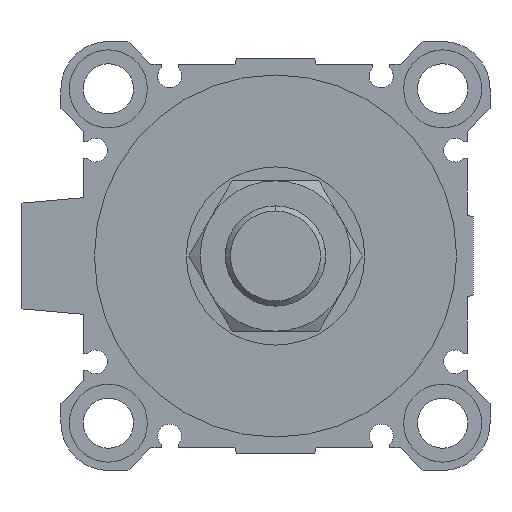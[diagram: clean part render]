
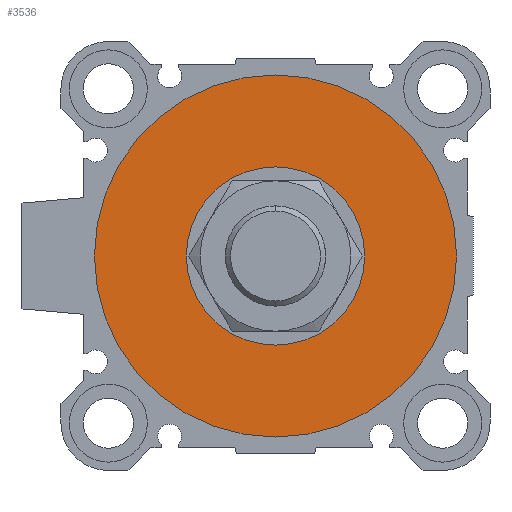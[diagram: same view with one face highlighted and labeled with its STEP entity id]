
A CAD part, left-side view. The second image highlights one B-rep face of the part: STEP entity #3536.
In plain terms, the highlighted planar face has unit normal (-1, 0, 0).
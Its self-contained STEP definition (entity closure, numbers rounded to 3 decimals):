
#155 = FACE_OUTER_BOUND ( 'NONE', #1025, .T. ) ;
#213 = CARTESIAN_POINT ( 'NONE',  ( 4., 0., 32.5 ) ) ;
#488 = DIRECTION ( 'NONE',  ( 1., 0., 0. ) ) ;
#635 = AXIS2_PLACEMENT_3D ( 'NONE', #2578, #2462, #6737 ) ;
#721 = FACE_BOUND ( 'NONE', #3749, .T. ) ;
#900 = CIRCLE ( 'NONE', #5692, 32.5 ) ;
#1025 = EDGE_LOOP ( 'NONE', ( #4342, #2739 ) ) ;
#1341 = DIRECTION ( 'NONE',  ( 1., 0., 0. ) ) ;
#1454 = CARTESIAN_POINT ( 'NONE',  ( 4., 0., 16. ) ) ;
#1584 = VERTEX_POINT ( 'NONE', #3937 ) ;
#2462 = DIRECTION ( 'NONE',  ( 1., 0., 0. ) ) ;
#2521 = CARTESIAN_POINT ( 'NONE',  ( 4., 0., 0. ) ) ;
#2578 = CARTESIAN_POINT ( 'NONE',  ( 4., 0., 0. ) ) ;
#2738 = CIRCLE ( 'NONE', #5204, 32.5 ) ;
#2739 = ORIENTED_EDGE ( 'NONE', *, *, #6615, .F. ) ;
#3026 = PLANE ( 'NONE',  #5794 ) ;
#3067 = CARTESIAN_POINT ( 'NONE',  ( 4., 0., 0. ) ) ;
#3334 = CIRCLE ( 'NONE', #635, 16. ) ;
#3536 = ADVANCED_FACE ( 'NONE', ( #155, #721 ), #3026, .F. ) ;
#3698 = DIRECTION ( 'NONE',  ( 0., 0., -1. ) ) ;
#3749 = EDGE_LOOP ( 'NONE', ( #3819, #6002 ) ) ;
#3819 = ORIENTED_EDGE ( 'NONE', *, *, #4371, .T. ) ;
#3937 = CARTESIAN_POINT ( 'NONE',  ( 4., 0., -16. ) ) ;
#4232 = AXIS2_PLACEMENT_3D ( 'NONE', #4587, #5723, #6873 ) ;
#4342 = ORIENTED_EDGE ( 'NONE', *, *, #6395, .F. ) ;
#4353 = VERTEX_POINT ( 'NONE', #213 ) ;
#4371 = EDGE_CURVE ( 'NONE', #7511, #1584, #3334, .T. ) ;
#4379 = VERTEX_POINT ( 'NONE', #4833 ) ;
#4587 = CARTESIAN_POINT ( 'NONE',  ( 4., 0., 0. ) ) ;
#4833 = CARTESIAN_POINT ( 'NONE',  ( 4., 0., -32.5 ) ) ;
#4855 = DIRECTION ( 'NONE',  ( 1., 0., 0. ) ) ;
#5204 = AXIS2_PLACEMENT_3D ( 'NONE', #6938, #488, #5645 ) ;
#5645 = DIRECTION ( 'NONE',  ( 0., 0., -1. ) ) ;
#5692 = AXIS2_PLACEMENT_3D ( 'NONE', #2521, #1341, #3698 ) ;
#5723 = DIRECTION ( 'NONE',  ( 1., 0., 0. ) ) ;
#5794 = AXIS2_PLACEMENT_3D ( 'NONE', #3067, #4855, #6643 ) ;
#5805 = CIRCLE ( 'NONE', #4232, 16. ) ;
#6002 = ORIENTED_EDGE ( 'NONE', *, *, #6203, .T. ) ;
#6203 = EDGE_CURVE ( 'NONE', #1584, #7511, #5805, .T. ) ;
#6395 = EDGE_CURVE ( 'NONE', #4353, #4379, #900, .T. ) ;
#6615 = EDGE_CURVE ( 'NONE', #4379, #4353, #2738, .T. ) ;
#6643 = DIRECTION ( 'NONE',  ( 0., 1., 0. ) ) ;
#6737 = DIRECTION ( 'NONE',  ( 0., 0., -1. ) ) ;
#6873 = DIRECTION ( 'NONE',  ( 0., 0., -1. ) ) ;
#6938 = CARTESIAN_POINT ( 'NONE',  ( 4., 0., 0. ) ) ;
#7511 = VERTEX_POINT ( 'NONE', #1454 ) ;
